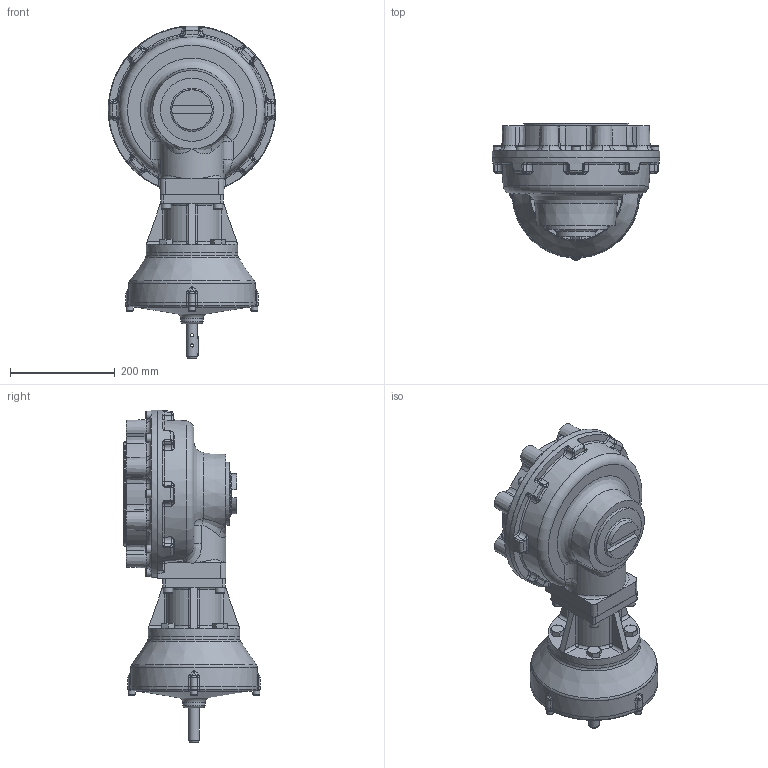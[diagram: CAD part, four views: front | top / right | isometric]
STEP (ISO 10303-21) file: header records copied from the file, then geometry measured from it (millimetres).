
FILE_DESCRIPTION( ( 'Unknown' ), '1' );
FILE_NAME( 'X:/CURRENT/PUB/Hob/HOB-2014/HOB-MPR/HOB-MPR-STP_FILES/PUB-HOB8MPR10-30.4-MAN-F25.stp', 'Unknown', ( 'Unknown' ), ( 'Unknown' ), 'PSStep 16.0.42', 'Unknown', ' ' );
FILE_SCHEMA( ( 'AUTOMOTIVE_DESIGN { 1 0 10303 214 1 1 1 1 }' ) );
Length unit declared in the file: millimetre
Products named in the file (31): 1; 2; 3; 4; trelleborg_trea00200-n7mm_b5c67wtxxcj74kwnwb2box077_01; 5; 6; 7; 8; 9; 10; 11; 12; 13; 14; 15; 16; 17; 18; 19; 20; 21; 22; 23; 24; 25; 26; 27; 28; 29; 30
Bounding box: 320 x 261.47 x 633.98 mm (x, y, z)
Surface area: 1390950.1 mm2 (no closed solid volume)
Topology: 0 solids, 3276 shells, 3276 faces, 16846 edges, 16413 vertices
Faces by surface type: cylinder 1053, plane 905, cone 608, bspline 355, torus 289, sphere 66
Full cylindrical faces by diameter (mm): 6 x2, 6.647 x8, 8 x4, 8.5 x12, 10 x8, 10.2 x4, 10.5 x8, 12 x4, 12.5 x4, 13.27 x4, 13.835 x16, 16 x12, 16.5 x4, 18 x4, 19 x1, 20 x2, 20.5 x2, 22.098 x1, 23 x1, 25 x1, 29.5 x1, 29.583 x1, 30 x3, 50 x2, 55.115 x1, 66.675 x1, 86.875 x1, 89.74 x2, 89.925 x2, 90 x3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
Entity records: 268527 total; most frequent: CARTESIAN_POINT 121523, DIRECTION 25884, VERTEX_POINT 16269, ORIENTED_EDGE 16238, EDGE_CURVE 16238, AXIS2_PLACEMENT_3D 10062, CIRCLE 7070, LINE 5760
